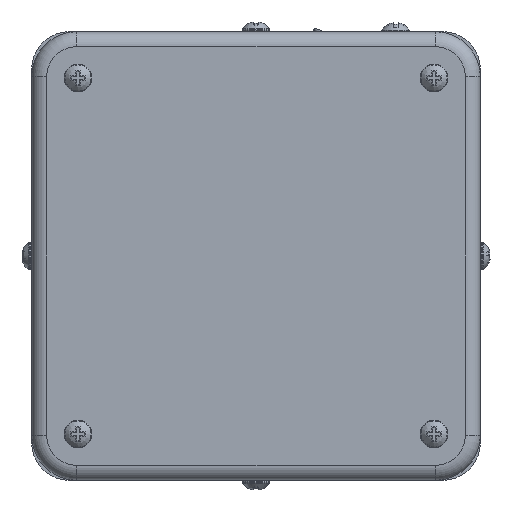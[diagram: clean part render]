
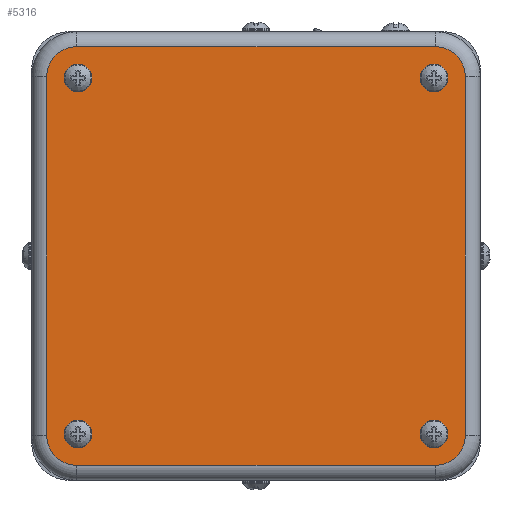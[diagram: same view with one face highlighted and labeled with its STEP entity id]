
A CAD part, left-side view. The second image highlights one B-rep face of the part: STEP entity #5316.
In plain terms, the highlighted planar face has unit normal (-1, 0, 0).
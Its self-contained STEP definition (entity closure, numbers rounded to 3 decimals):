
#410=LINE('',#8961,#777);
#411=LINE('',#8965,#778);
#412=LINE('',#8969,#779);
#413=LINE('',#8972,#780);
#777=VECTOR('',#6749,72.);
#778=VECTOR('',#6752,72.);
#779=VECTOR('',#6755,72.);
#780=VECTOR('',#6758,72.);
#1070=FACE_BOUND('',#1685,.T.);
#1071=FACE_BOUND('',#1686,.T.);
#1072=FACE_BOUND('',#1687,.T.);
#1073=FACE_BOUND('',#1688,.T.);
#1308=FACE_OUTER_BOUND('',#1684,.T.);
#1684=EDGE_LOOP('',(#4058,#4059,#4060,#4061,#4062,#4063,#4064,#4065));
#1685=EDGE_LOOP('',(#4066));
#1686=EDGE_LOOP('',(#4067));
#1687=EDGE_LOOP('',(#4068));
#1688=EDGE_LOOP('',(#4069));
#1910=CIRCLE('',#5569,2.8);
#1917=CIRCLE('',#5594,2.8);
#1924=CIRCLE('',#5619,2.8);
#1954=CIRCLE('',#5735,6.);
#1955=CIRCLE('',#5736,6.);
#1956=CIRCLE('',#5737,6.);
#1957=CIRCLE('',#5738,6.);
#1958=CIRCLE('',#5739,2.8);
#2121=VERTEX_POINT('',#7562);
#2153=VERTEX_POINT('',#7757);
#2185=VERTEX_POINT('',#7954);
#2352=VERTEX_POINT('',#8957);
#2353=VERTEX_POINT('',#8958);
#2354=VERTEX_POINT('',#8960);
#2355=VERTEX_POINT('',#8962);
#2356=VERTEX_POINT('',#8964);
#2357=VERTEX_POINT('',#8966);
#2358=VERTEX_POINT('',#8968);
#2359=VERTEX_POINT('',#8970);
#2360=VERTEX_POINT('',#8973);
#2636=EDGE_CURVE('',#2121,#2121,#1910,.T.);
#2681=EDGE_CURVE('',#2153,#2153,#1917,.T.);
#2726=EDGE_CURVE('',#2185,#2185,#1924,.T.);
#2962=EDGE_CURVE('',#2352,#2353,#1954,.T.);
#2963=EDGE_CURVE('',#2354,#2352,#410,.T.);
#2964=EDGE_CURVE('',#2355,#2354,#1955,.T.);
#2965=EDGE_CURVE('',#2356,#2355,#411,.T.);
#2966=EDGE_CURVE('',#2357,#2356,#1956,.T.);
#2967=EDGE_CURVE('',#2358,#2357,#412,.T.);
#2968=EDGE_CURVE('',#2359,#2358,#1957,.T.);
#2969=EDGE_CURVE('',#2353,#2359,#413,.T.);
#2970=EDGE_CURVE('',#2360,#2360,#1958,.T.);
#4058=ORIENTED_EDGE('',*,*,#2962,.F.);
#4059=ORIENTED_EDGE('',*,*,#2963,.F.);
#4060=ORIENTED_EDGE('',*,*,#2964,.F.);
#4061=ORIENTED_EDGE('',*,*,#2965,.F.);
#4062=ORIENTED_EDGE('',*,*,#2966,.F.);
#4063=ORIENTED_EDGE('',*,*,#2967,.F.);
#4064=ORIENTED_EDGE('',*,*,#2968,.F.);
#4065=ORIENTED_EDGE('',*,*,#2969,.F.);
#4066=ORIENTED_EDGE('',*,*,#2636,.T.);
#4067=ORIENTED_EDGE('',*,*,#2970,.T.);
#4068=ORIENTED_EDGE('',*,*,#2681,.T.);
#4069=ORIENTED_EDGE('',*,*,#2726,.T.);
#4744=PLANE('',#5734);
#5316=ADVANCED_FACE('',(#1308,#1070,#1071,#1072,#1073),#4744,.F.);
#5569=AXIS2_PLACEMENT_3D('',#7563,#6231,#6232);
#5594=AXIS2_PLACEMENT_3D('',#7758,#6305,#6306);
#5619=AXIS2_PLACEMENT_3D('',#7955,#6379,#6380);
#5734=AXIS2_PLACEMENT_3D('',#8956,#6745,#6746);
#5735=AXIS2_PLACEMENT_3D('',#8959,#6747,#6748);
#5736=AXIS2_PLACEMENT_3D('',#8963,#6750,#6751);
#5737=AXIS2_PLACEMENT_3D('',#8967,#6753,#6754);
#5738=AXIS2_PLACEMENT_3D('',#8971,#6756,#6757);
#5739=AXIS2_PLACEMENT_3D('',#8974,#6759,#6760);
#6231=DIRECTION('center_axis',(1.,0.,0.));
#6232=DIRECTION('ref_axis',(0.,0.,-1.));
#6305=DIRECTION('center_axis',(1.,0.,0.));
#6306=DIRECTION('ref_axis',(0.,0.,-1.));
#6379=DIRECTION('center_axis',(1.,0.,0.));
#6380=DIRECTION('ref_axis',(0.,0.,-1.));
#6745=DIRECTION('center_axis',(1.,0.,0.));
#6746=DIRECTION('ref_axis',(0.,0.,1.));
#6747=DIRECTION('center_axis',(1.,0.,0.));
#6748=DIRECTION('ref_axis',(0.,0.707,0.707));
#6749=DIRECTION('',(0.,0.,1.));
#6750=DIRECTION('center_axis',(1.,0.,0.));
#6751=DIRECTION('ref_axis',(0.,0.707,-0.707));
#6752=DIRECTION('',(0.,1.,0.));
#6753=DIRECTION('center_axis',(1.,0.,0.));
#6754=DIRECTION('ref_axis',(0.,-0.707,-0.707));
#6755=DIRECTION('',(0.,0.,-1.));
#6756=DIRECTION('center_axis',(1.,0.,0.));
#6757=DIRECTION('ref_axis',(0.,-0.707,0.707));
#6758=DIRECTION('',(0.,-1.,0.));
#6759=DIRECTION('center_axis',(1.,0.,0.));
#6760=DIRECTION('ref_axis',(0.,0.,-1.));
#7562=CARTESIAN_POINT('',(-54.8,-35.709,-32.909));
#7563=CARTESIAN_POINT('Origin',(-54.8,-35.709,-35.709));
#7757=CARTESIAN_POINT('',(-54.8,-35.709,38.509));
#7758=CARTESIAN_POINT('Origin',(-54.8,-35.709,35.709));
#7954=CARTESIAN_POINT('',(-54.8,35.709,38.509));
#7955=CARTESIAN_POINT('Origin',(-54.8,35.709,35.709));
#8956=CARTESIAN_POINT('Origin',(-54.8,7.027,7.027));
#8957=CARTESIAN_POINT('',(-54.8,42.,36.));
#8958=CARTESIAN_POINT('',(-54.8,36.,42.));
#8959=CARTESIAN_POINT('Origin',(-54.8,36.,36.));
#8960=CARTESIAN_POINT('',(-54.8,42.,-36.));
#8961=CARTESIAN_POINT('',(-54.8,42.,-36.));
#8962=CARTESIAN_POINT('',(-54.8,36.,-42.));
#8963=CARTESIAN_POINT('Origin',(-54.8,36.,-36.));
#8964=CARTESIAN_POINT('',(-54.8,-36.,-42.));
#8965=CARTESIAN_POINT('',(-54.8,-36.,-42.));
#8966=CARTESIAN_POINT('',(-54.8,-42.,-36.));
#8967=CARTESIAN_POINT('Origin',(-54.8,-36.,-36.));
#8968=CARTESIAN_POINT('',(-54.8,-42.,36.));
#8969=CARTESIAN_POINT('',(-54.8,-42.,36.));
#8970=CARTESIAN_POINT('',(-54.8,-36.,42.));
#8971=CARTESIAN_POINT('Origin',(-54.8,-36.,36.));
#8972=CARTESIAN_POINT('',(-54.8,36.,42.));
#8973=CARTESIAN_POINT('',(-54.8,35.709,-32.909));
#8974=CARTESIAN_POINT('Origin',(-54.8,35.709,-35.709));
